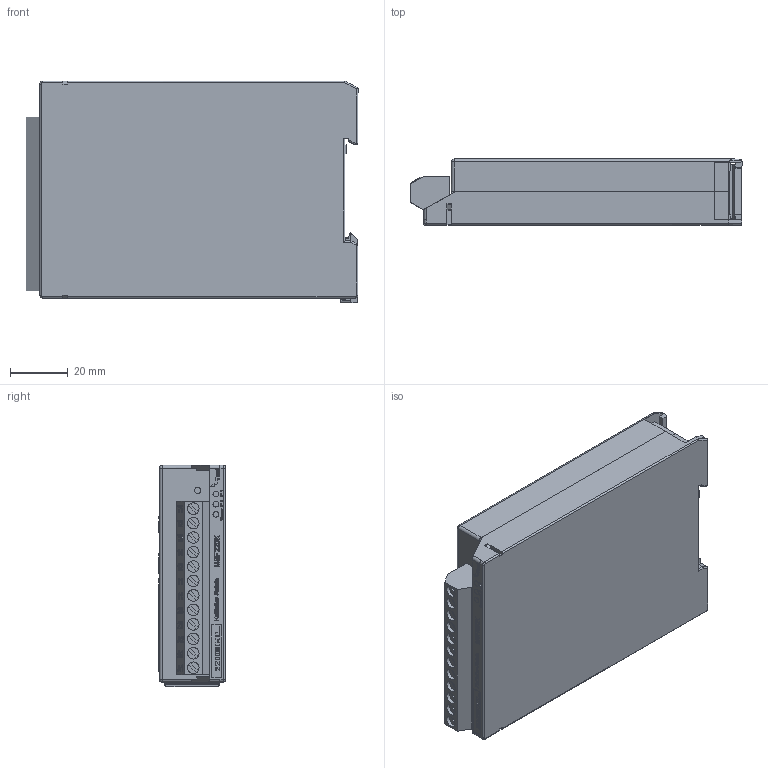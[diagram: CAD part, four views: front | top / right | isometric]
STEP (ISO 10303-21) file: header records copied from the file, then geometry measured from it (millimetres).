
FILE_DESCRIPTION (( 'STEP AP214' ), '1' );
FILE_NAME ('12710-1902-00_MSF_3D.STEP', '2016-05-04T12:17:47', ( '' ), ( '' ), 'SwSTEP 2.0', 'SolidWorks 2015', '' );
FILE_SCHEMA (( 'AUTOMOTIVE_DESIGN' ));
Length unit declared in the file: millimetre
Products named in the file (10): Kopie von 1045 1940 K-UT_3D^12710-1902-00_MSF_3D; 12710-1902-00_MSF_3D; Kopie von K-Riegel^12710-1902-00_MSF_3D; Kopie von K-Leiterpklatte 60 lang^12710-1902-00_MSF_3D; LED+Loch - MSF; 12710-1201-00_3D; Kopie von 1045 1920 K-Deckel^12710-1902-00_MSF_3D; Kopie von 31147112^12710-1902-00_MSF_3D; pan head cross recess screw_din_ISO 7045 - M3 x 4 - Z --- 4N; Kopie von MSF_KlemmenDruck^12710-1902-00_MSF_3D
Assembly tree (9 placements, depth 2):
  12710-1902-00_MSF_3D
    Kopie von 1045 1940 K-UT_3D^12710-1902-00_MSF_3D
    LED+Loch - MSF
    Kopie von 1045 1920 K-Deckel^12710-1902-00_MSF_3D
    Kopie von K-Leiterpklatte 60 lang^12710-1902-00_MSF_3D
    pan head cross recess screw_din_ISO 7045 - M3 x 4 - Z --- 4N
    12710-1201-00_3D
    Kopie von 31147112^12710-1902-00_MSF_3D
    Kopie von MSF_KlemmenDruck^12710-1902-00_MSF_3D
    Kopie von K-Riegel^12710-1902-00_MSF_3D
Bounding box: 114.78 x 22.94 x 76.65 mm (x, y, z)
Volume: 51392.5 mm3; surface area: 64869.7 mm2
Topology: 364 solids, 364 shells, 4279 faces, 10281 edges, 6778 vertices
Faces by surface type: plane 3246, bspline 787, cylinder 179, cone 25, sphere 22, torus 20
Full cylindrical faces by diameter (mm): 1 x12, 1.5 x7, 2 x3, 2.8 x2, 3 x12, 3.1 x12, 3.6 x1, 4 x12, 4.2 x1, 5.6 x1, 6 x1, 6.8 x1, 7 x1, 7.2 x1, 9 x1
Entity records: 145587 total; most frequent: CARTESIAN_POINT 44905, ORIENTED_EDGE 20284, DIRECTION 15872, EDGE_CURVE 10142, VECTOR 8096, LINE 8096, VERTEX_POINT 6753, EDGE_LOOP 4653
